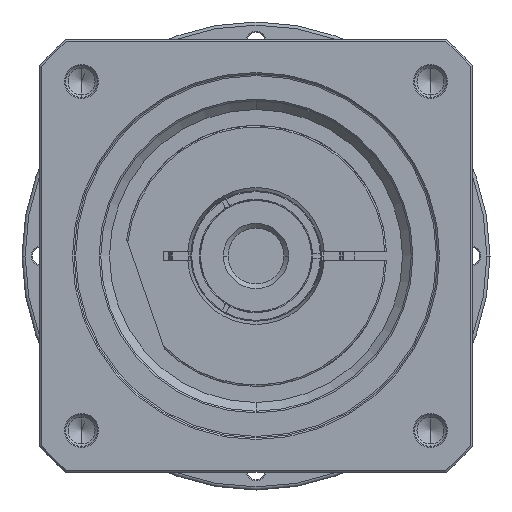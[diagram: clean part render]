
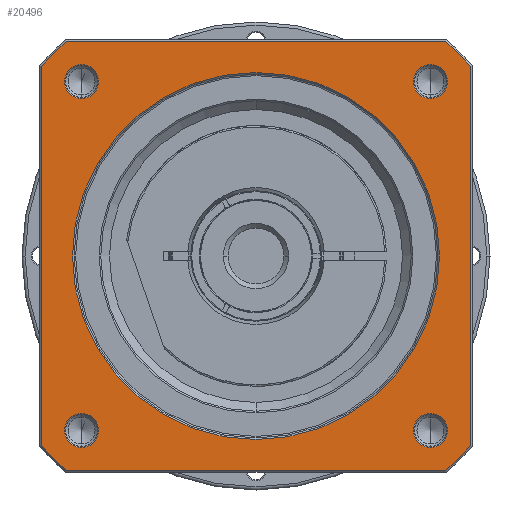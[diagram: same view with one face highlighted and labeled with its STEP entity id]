
A CAD part, left-side view. The second image highlights one B-rep face of the part: STEP entity #20496.
In plain terms, the highlighted planar face has unit normal (-1, 0, 0) as drawn and (0, 0, 1) by its records, which use the part's own axes.
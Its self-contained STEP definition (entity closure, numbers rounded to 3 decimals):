
#19227=DIRECTION('',(1.,0.,0.));
#19228=VECTOR('',#19227,119.059);
#19229=CARTESIAN_POINT('',(-59.529,-67.5,41.));
#19230=LINE('',#19229,#19228);
#19240=CARTESIAN_POINT('',(0.,0.,
41.));
#19241=DIRECTION('',(0.,0.,-1.));
#19242=DIRECTION('',(0.,-1.,0.));
#19243=AXIS2_PLACEMENT_3D('',#19240,#19241,#19242);
#19245=CARTESIAN_POINT('',(0.,0.,
41.));
#19246=DIRECTION('',(0.,0.,-1.));
#19247=DIRECTION('',(0.,1.,0.));
#19248=AXIS2_PLACEMENT_3D('',#19245,#19246,#19247);
#19250=CARTESIAN_POINT('',(0.,0.,41.));
#19251=DIRECTION('',(0.,0.,1.));
#19252=DIRECTION('',(-0.75,-0.661,0.));
#19253=AXIS2_PLACEMENT_3D('',#19250,#19251,#19252);
#19265=DIRECTION('',(0.,-1.,0.));
#19266=VECTOR('',#19265,119.059);
#19267=CARTESIAN_POINT('',(-67.5,59.529,41.));
#19268=LINE('',#19267,#19266);
#19278=CARTESIAN_POINT('',(0.,0.,41.));
#19279=DIRECTION('',(0.,0.,1.));
#19280=DIRECTION('',(-0.661,0.75,0.));
#19281=AXIS2_PLACEMENT_3D('',#19278,#19279,#19280);
#19306=DIRECTION('',(-1.,0.,0.));
#19307=VECTOR('',#19306,119.059);
#19308=CARTESIAN_POINT('',(59.529,67.5,41.));
#19309=LINE('',#19308,#19307);
#19314=CARTESIAN_POINT('',(0.,0.,41.));
#19315=DIRECTION('',(0.,0.,1.));
#19316=DIRECTION('',(0.75,0.661,0.));
#19317=AXIS2_PLACEMENT_3D('',#19314,#19315,#19316);
#19329=DIRECTION('',(0.,1.,0.));
#19330=VECTOR('',#19329,119.059);
#19331=CARTESIAN_POINT('',(67.5,-59.529,41.));
#19332=LINE('',#19331,#19330);
#19434=CARTESIAN_POINT('',(0.,0.,41.));
#19435=DIRECTION('',(0.,0.,1.));
#19436=DIRECTION('',(0.661,-0.75,0.));
#19437=AXIS2_PLACEMENT_3D('',#19434,#19435,#19436);
#19713=CARTESIAN_POINT('',(-54.801,54.801,41.));
#19714=DIRECTION('',(0.,0.,1.));
#19715=DIRECTION('',(-1.,0.,0.));
#19716=AXIS2_PLACEMENT_3D('',#19713,#19714,#19715);
#19731=CARTESIAN_POINT('',(-54.801,54.801,41.));
#19732=DIRECTION('',(0.,0.,1.));
#19733=DIRECTION('',(1.,0.,0.));
#19734=AXIS2_PLACEMENT_3D('',#19731,#19732,#19733);
#19767=CARTESIAN_POINT('',(54.801,54.801,41.));
#19768=DIRECTION('',(0.,0.,1.));
#19769=DIRECTION('',(-1.,0.,0.));
#19770=AXIS2_PLACEMENT_3D('',#19767,#19768,#19769);
#19785=CARTESIAN_POINT('',(54.801,54.801,41.));
#19786=DIRECTION('',(0.,0.,1.));
#19787=DIRECTION('',(1.,0.,0.));
#19788=AXIS2_PLACEMENT_3D('',#19785,#19786,#19787);
#19821=CARTESIAN_POINT('',(54.801,-54.801,41.));
#19822=DIRECTION('',(0.,0.,1.));
#19823=DIRECTION('',(-1.,0.,0.));
#19824=AXIS2_PLACEMENT_3D('',#19821,#19822,#19823);
#19839=CARTESIAN_POINT('',(54.801,-54.801,41.));
#19840=DIRECTION('',(0.,0.,1.));
#19841=DIRECTION('',(1.,0.,0.));
#19842=AXIS2_PLACEMENT_3D('',#19839,#19840,#19841);
#19875=CARTESIAN_POINT('',(-54.801,-54.801,41.));
#19876=DIRECTION('',(0.,0.,1.));
#19877=DIRECTION('',(-1.,0.,0.));
#19878=AXIS2_PLACEMENT_3D('',#19875,#19876,#19877);
#19893=CARTESIAN_POINT('',(-54.801,-54.801,41.));
#19894=DIRECTION('',(0.,0.,1.));
#19895=DIRECTION('',(1.,0.,0.));
#19896=AXIS2_PLACEMENT_3D('',#19893,#19894,#19895);
#19937=CARTESIAN_POINT('',(67.5,-59.529,41.));
#19938=CARTESIAN_POINT('',(67.5,59.529,41.));
#19939=VERTEX_POINT('',#19937);
#19940=VERTEX_POINT('',#19938);
#19945=CARTESIAN_POINT('',(59.529,-67.5,41.));
#19946=VERTEX_POINT('',#19945);
#19949=CARTESIAN_POINT('',(-59.529,-67.5,41.));
#19950=VERTEX_POINT('',#19949);
#19953=CARTESIAN_POINT('',(-67.5,-59.529,41.));
#19954=VERTEX_POINT('',#19953);
#19957=CARTESIAN_POINT('',(-67.5,59.529,41.));
#19958=VERTEX_POINT('',#19957);
#19961=CARTESIAN_POINT('',(-59.529,67.5,41.));
#19962=VERTEX_POINT('',#19961);
#19965=CARTESIAN_POINT('',(59.529,67.5,41.));
#19966=VERTEX_POINT('',#19965);
#20015=CARTESIAN_POINT('',(-60.151,54.801,41.));
#20016=CARTESIAN_POINT('',(-49.451,54.801,41.));
#20017=VERTEX_POINT('',#20015);
#20018=VERTEX_POINT('',#20016);
#20049=CARTESIAN_POINT('',(60.151,54.801,41.));
#20050=CARTESIAN_POINT('',(49.451,54.801,41.));
#20051=VERTEX_POINT('',#20049);
#20052=VERTEX_POINT('',#20050);
#20057=CARTESIAN_POINT('',(60.151,-54.801,41.));
#20058=CARTESIAN_POINT('',(49.451,-54.801,41.));
#20059=VERTEX_POINT('',#20057);
#20060=VERTEX_POINT('',#20058);
#20065=CARTESIAN_POINT('',(-49.451,-54.801,41.));
#20066=CARTESIAN_POINT('',(-60.151,-54.801,41.));
#20067=VERTEX_POINT('',#20065);
#20068=VERTEX_POINT('',#20066);
#20073=CARTESIAN_POINT('',(0.,-57.65,41.));
#20074=CARTESIAN_POINT('',(0.,57.65,
41.));
#20075=VERTEX_POINT('',#20073);
#20076=VERTEX_POINT('',#20074);
#20444=CARTESIAN_POINT('',(0.,0.,41.));
#20445=DIRECTION('',(0.,0.,1.));
#20446=DIRECTION('',(1.,0.,0.));
#20447=AXIS2_PLACEMENT_3D('',#20444,#20445,#20446);
#20448=PLANE('',#20447);
#20450=ORIENTED_EDGE('',*,*,#20449,.F.);
#20452=ORIENTED_EDGE('',*,*,#20451,.F.);
#20454=ORIENTED_EDGE('',*,*,#20453,.F.);
#20456=ORIENTED_EDGE('',*,*,#20455,.F.);
#20458=ORIENTED_EDGE('',*,*,#20457,.F.);
#20460=ORIENTED_EDGE('',*,*,#20459,.F.);
#20462=ORIENTED_EDGE('',*,*,#20461,.F.);
#20463=ORIENTED_EDGE('',*,*,#20434,.F.);
#20464=EDGE_LOOP('',(#20450,#20452,#20454,#20456,#20458,#20460,#20462,#20463));
#20465=FACE_OUTER_BOUND('',#20464,.F.);
#20467=ORIENTED_EDGE('',*,*,#20466,.F.);
#20469=ORIENTED_EDGE('',*,*,#20468,.F.);
#20470=EDGE_LOOP('',(#20467,#20469));
#20471=FACE_BOUND('',#20470,.F.);
#20473=ORIENTED_EDGE('',*,*,#20472,.T.);
#20475=ORIENTED_EDGE('',*,*,#20474,.T.);
#20476=EDGE_LOOP('',(#20473,#20475));
#20477=FACE_BOUND('',#20476,.F.);
#20479=ORIENTED_EDGE('',*,*,#20478,.T.);
#20481=ORIENTED_EDGE('',*,*,#20480,.T.);
#20482=EDGE_LOOP('',(#20479,#20481));
#20483=FACE_BOUND('',#20482,.F.);
#20485=ORIENTED_EDGE('',*,*,#20484,.T.);
#20487=ORIENTED_EDGE('',*,*,#20486,.T.);
#20488=EDGE_LOOP('',(#20485,#20487));
#20489=FACE_BOUND('',#20488,.F.);
#20491=ORIENTED_EDGE('',*,*,#20490,.T.);
#20493=ORIENTED_EDGE('',*,*,#20492,.T.);
#20494=EDGE_LOOP('',(#20491,#20493));
#20495=FACE_BOUND('',#20494,.F.);
#20496=ADVANCED_FACE('',(#20465,#20471,#20477,#20483,#20489,#20495),#20448,.T.);
#19244=CIRCLE('',#19243,57.65);
#19249=CIRCLE('',#19248,57.65);
#19254=CIRCLE('',#19253,90.);
#19282=CIRCLE('',#19281,90.);
#19318=CIRCLE('',#19317,90.);
#19438=CIRCLE('',#19437,90.);
#19717=CIRCLE('',#19716,5.35);
#19735=CIRCLE('',#19734,5.35);
#19771=CIRCLE('',#19770,5.35);
#19789=CIRCLE('',#19788,5.35);
#19825=CIRCLE('',#19824,5.35);
#19843=CIRCLE('',#19842,5.35);
#19879=CIRCLE('',#19878,5.35);
#19897=CIRCLE('',#19896,5.35);
#20434=EDGE_CURVE('',#19950,#19946,#19230,.T.);
#20449=EDGE_CURVE('',#19954,#19950,#19254,.T.);
#20451=EDGE_CURVE('',#19958,#19954,#19268,.T.);
#20453=EDGE_CURVE('',#19962,#19958,#19282,.T.);
#20455=EDGE_CURVE('',#19966,#19962,#19309,.T.);
#20457=EDGE_CURVE('',#19940,#19966,#19318,.T.);
#20459=EDGE_CURVE('',#19939,#19940,#19332,.T.);
#20461=EDGE_CURVE('',#19946,#19939,#19438,.T.);
#20466=EDGE_CURVE('',#20075,#20076,#19244,.T.);
#20468=EDGE_CURVE('',#20076,#20075,#19249,.T.);
#20472=EDGE_CURVE('',#20017,#20018,#19717,.T.);
#20474=EDGE_CURVE('',#20018,#20017,#19735,.T.);
#20478=EDGE_CURVE('',#20052,#20051,#19771,.T.);
#20480=EDGE_CURVE('',#20051,#20052,#19789,.T.);
#20484=EDGE_CURVE('',#20060,#20059,#19825,.T.);
#20486=EDGE_CURVE('',#20059,#20060,#19843,.T.);
#20490=EDGE_CURVE('',#20068,#20067,#19879,.T.);
#20492=EDGE_CURVE('',#20067,#20068,#19897,.T.);
